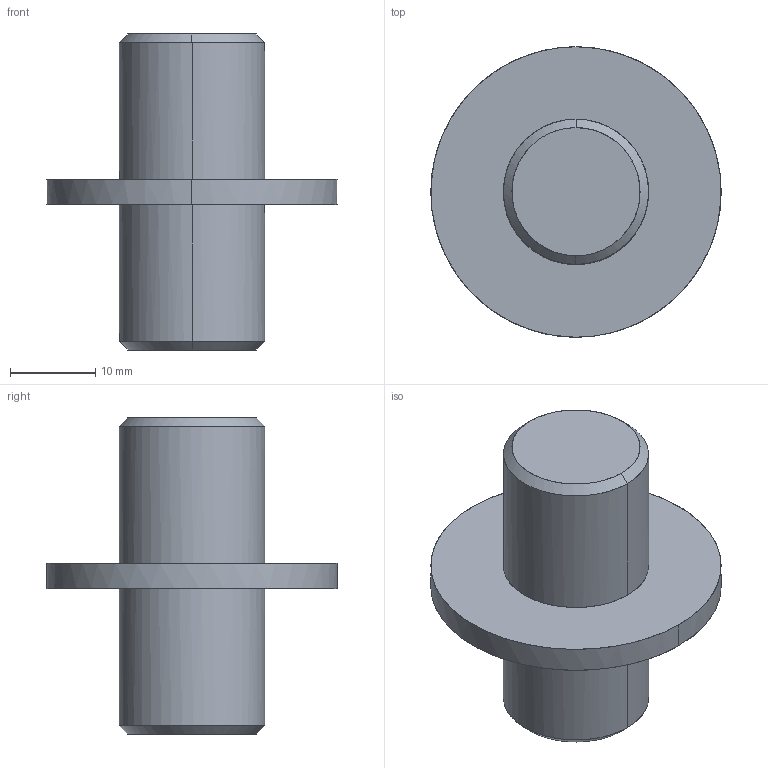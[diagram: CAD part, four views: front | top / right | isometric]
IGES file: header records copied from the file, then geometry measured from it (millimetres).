
Global section: file name: E:\UnigraphicsGraphicData\MISUMI_PRESS-PARTS\IGES\3d_sswc34_00827_r00.igs; native system: NX V5.0; preprocessor: UGS NX IGES V5.0; author: MISUMI; date: 20110105.163201; units: millimetre
Bounding box: 34 x 34 x 37 mm (x, y, z)
Surface area: 3887 mm2 (no closed solid volume)
Topology: 0 solids, 0 shells, 14 faces, 104 edges, 104 vertices
Faces by surface type: bspline 14
